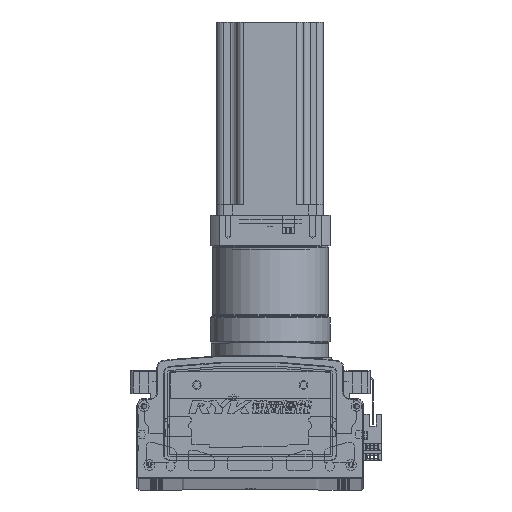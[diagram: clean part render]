
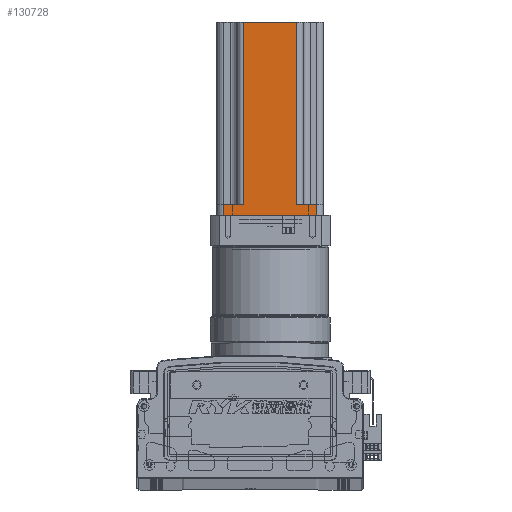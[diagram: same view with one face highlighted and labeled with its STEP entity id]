
A CAD part, top view. The second image highlights one B-rep face of the part: STEP entity #130728.
In plain terms, the highlighted planar face has unit normal (0, 0, 1) as drawn and (0, -1, 0) by its records, which use the part's own axes.
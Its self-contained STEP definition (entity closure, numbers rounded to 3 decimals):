
#34183 = FACE_OUTER_BOUND ( 'NONE', #47086, .T. ) ;
#47086 = EDGE_LOOP ( 'NONE', ( #113400, #113422, #113387, #113384, #113419, #113378, #113453, #113394 ) ) ;
#49441 = DIRECTION ( 'NONE',  ( 0., 1., 0. ) ) ;
#49497 = DIRECTION ( 'NONE',  ( -1., 0., 0. ) ) ;
#49515 = PLANE ( 'NONE',  #58594 ) ;
#49521 = CARTESIAN_POINT ( 'NONE',  ( -87.587, -40.37, 145. ) ) ;
#54835 = CARTESIAN_POINT ( 'NONE',  ( -12.587, -40.37, 0. ) ) ;
#54889 = CARTESIAN_POINT ( 'NONE',  ( -67.587, -40.37, 8. ) ) ;
#54894 = CARTESIAN_POINT ( 'NONE',  ( -27.587, -40.37, 145. ) ) ;
#54949 = CARTESIAN_POINT ( 'NONE',  ( -82.587, -40.37, 8. ) ) ;
#54957 = CARTESIAN_POINT ( 'NONE',  ( -27.587, -40.37, 8. ) ) ;
#54978 = CARTESIAN_POINT ( 'NONE',  ( -12.587, -40.37, 8. ) ) ;
#54990 = CARTESIAN_POINT ( 'NONE',  ( -67.587, -40.37, 145. ) ) ;
#55087 = CARTESIAN_POINT ( 'NONE',  ( -82.587, -40.37, 0. ) ) ;
#58594 = AXIS2_PLACEMENT_3D ( 'NONE', #49521, #49441, #49497 ) ;
#62605 = EDGE_CURVE ( 'NONE', #74680, #74611, #84000, .T. ) ;
#62680 = EDGE_CURVE ( 'NONE', #74733, #74615, #84098, .T. ) ;
#62701 = EDGE_CURVE ( 'NONE', #74670, #74733, #84084, .T. ) ;
#62750 = EDGE_CURVE ( 'NONE', #74680, #74665, #84164, .T. ) ;
#62752 = EDGE_CURVE ( 'NONE', #74689, #74621, #84148, .T. ) ;
#62774 = EDGE_CURVE ( 'NONE', #74670, #74621, #84153, .T. ) ;
#62789 = EDGE_CURVE ( 'NONE', #74689, #74611, #84131, .T. ) ;
#62800 = EDGE_CURVE ( 'NONE', #74615, #74665, #84123, .T. ) ;
#70899 = DIRECTION ( 'NONE',  ( 0., 0., -1. ) ) ;
#70903 = DIRECTION ( 'NONE',  ( 1., 0., 0. ) ) ;
#70918 = CARTESIAN_POINT ( 'NONE',  ( -7.587, -40.37, 8. ) ) ;
#70933 = CARTESIAN_POINT ( 'NONE',  ( -67.587, -40.37, 145. ) ) ;
#70988 = CARTESIAN_POINT ( 'NONE',  ( -12.587, -40.37, 145. ) ) ;
#70997 = CARTESIAN_POINT ( 'NONE',  ( -87.587, -40.37, 8. ) ) ;
#71018 = CARTESIAN_POINT ( 'NONE',  ( -87.587, -40.37, 145. ) ) ;
#71039 = DIRECTION ( 'NONE',  ( 1., 0., 0. ) ) ;
#71049 = DIRECTION ( 'NONE',  ( 1., 0., 0. ) ) ;
#71079 = DIRECTION ( 'NONE',  ( 0., 0., 1. ) ) ;
#74611 = VERTEX_POINT ( 'NONE', #54894 ) ;
#74615 = VERTEX_POINT ( 'NONE', #54835 ) ;
#74621 = VERTEX_POINT ( 'NONE', #54889 ) ;
#74665 = VERTEX_POINT ( 'NONE', #54978 ) ;
#74670 = VERTEX_POINT ( 'NONE', #54949 ) ;
#74680 = VERTEX_POINT ( 'NONE', #54957 ) ;
#74689 = VERTEX_POINT ( 'NONE', #54990 ) ;
#74733 = VERTEX_POINT ( 'NONE', #55087 ) ;
#84000 = LINE ( 'NONE', #99855, #84039 ) ;
#84039 = VECTOR ( 'NONE', #99916, 1000. ) ;
#84084 = LINE ( 'NONE', #100277, #84086 ) ;
#84086 = VECTOR ( 'NONE', #100317, 1000. ) ;
#84098 = LINE ( 'NONE', #100229, #84099 ) ;
#84099 = VECTOR ( 'NONE', #100258, 1000. ) ;
#84123 = LINE ( 'NONE', #70988, #84169 ) ;
#84126 = VECTOR ( 'NONE', #70899, 1000. ) ;
#84131 = LINE ( 'NONE', #71018, #84133 ) ;
#84132 = VECTOR ( 'NONE', #70903, 1000. ) ;
#84133 = VECTOR ( 'NONE', #71039, 1000. ) ;
#84148 = LINE ( 'NONE', #70933, #84126 ) ;
#84153 = LINE ( 'NONE', #70997, #84182 ) ;
#84164 = LINE ( 'NONE', #70918, #84132 ) ;
#84169 = VECTOR ( 'NONE', #71079, 1000. ) ;
#84182 = VECTOR ( 'NONE', #71049, 1000. ) ;
#99855 = CARTESIAN_POINT ( 'NONE',  ( -27.587, -40.37, 145. ) ) ;
#99916 = DIRECTION ( 'NONE',  ( 0., 0., 1. ) ) ;
#100229 = CARTESIAN_POINT ( 'NONE',  ( -87.587, -40.37, 0. ) ) ;
#100258 = DIRECTION ( 'NONE',  ( 1., 0., 0. ) ) ;
#100277 = CARTESIAN_POINT ( 'NONE',  ( -82.587, -40.37, 145. ) ) ;
#100317 = DIRECTION ( 'NONE',  ( 0., 0., -1. ) ) ;
#113378 = ORIENTED_EDGE ( 'NONE', *, *, #62605, .T. ) ;
#113384 = ORIENTED_EDGE ( 'NONE', *, *, #62800, .T. ) ;
#113387 = ORIENTED_EDGE ( 'NONE', *, *, #62680, .T. ) ;
#113394 = ORIENTED_EDGE ( 'NONE', *, *, #62752, .T. ) ;
#113400 = ORIENTED_EDGE ( 'NONE', *, *, #62774, .F. ) ;
#113419 = ORIENTED_EDGE ( 'NONE', *, *, #62750, .F. ) ;
#113422 = ORIENTED_EDGE ( 'NONE', *, *, #62701, .T. ) ;
#113453 = ORIENTED_EDGE ( 'NONE', *, *, #62789, .F. ) ;
#130728 = ADVANCED_FACE ( 'NONE', ( #34183 ), #49515, .F. ) ;
